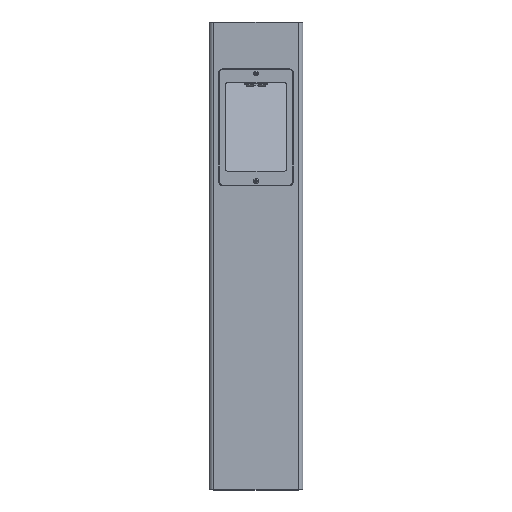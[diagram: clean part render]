
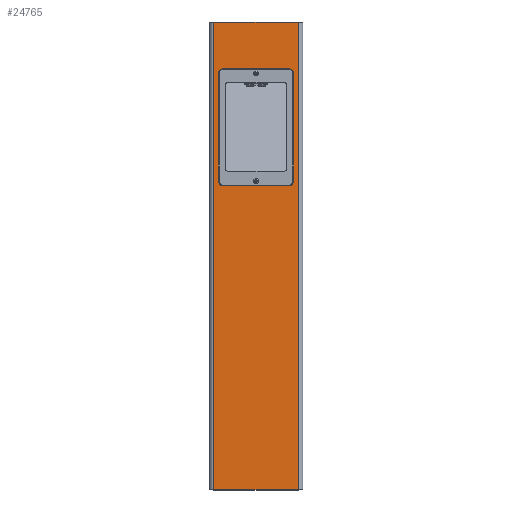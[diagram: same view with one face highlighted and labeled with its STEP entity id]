
A CAD part, top view. The second image highlights one B-rep face of the part: STEP entity #24765.
In plain terms, the highlighted planar face has unit normal (0, 0, 1).
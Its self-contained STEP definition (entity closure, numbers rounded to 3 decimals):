
#74 = DIRECTION ( 'NONE',  ( -1., 0., 0. ) ) ;
#287 = CARTESIAN_POINT ( 'NONE',  ( 70., 650., 50. ) ) ;
#643 = CARTESIAN_POINT ( 'NONE',  ( 80., 650., 50. ) ) ;
#1390 = EDGE_CURVE ( 'NONE', #9386, #35644, #16564, .T. ) ;
#1674 = VECTOR ( 'NONE', #6416, 1000. ) ;
#2121 = CARTESIAN_POINT ( 'NONE',  ( 80., 890., 50. ) ) ;
#2483 = DIRECTION ( 'NONE',  ( -1., 0., 0. ) ) ;
#3091 = CARTESIAN_POINT ( 'NONE',  ( -90., 0., 50. ) ) ;
#3532 = CARTESIAN_POINT ( 'NONE',  ( 90., 1000., 50. ) ) ;
#3735 = VERTEX_POINT ( 'NONE', #3532 ) ;
#3865 = VERTEX_POINT ( 'NONE', #35352 ) ;
#4044 = CIRCLE ( 'NONE', #20840, 10. ) ;
#4224 = VERTEX_POINT ( 'NONE', #11412 ) ;
#4380 = CARTESIAN_POINT ( 'NONE',  ( -70., 660., 50. ) ) ;
#5065 = CARTESIAN_POINT ( 'NONE',  ( -80., 900., 50. ) ) ;
#5258 = VERTEX_POINT ( 'NONE', #21775 ) ;
#6416 = DIRECTION ( 'NONE',  ( 0., -1., 0. ) ) ;
#7111 = DIRECTION ( 'NONE',  ( 1., 0., 0. ) ) ;
#7453 = LINE ( 'NONE', #5065, #11461 ) ;
#7532 = CARTESIAN_POINT ( 'NONE',  ( -80., 890., 50. ) ) ;
#7721 = VERTEX_POINT ( 'NONE', #14685 ) ;
#7908 = ORIENTED_EDGE ( 'NONE', *, *, #28803, .F. ) ;
#8850 = AXIS2_PLACEMENT_3D ( 'NONE', #4380, #33073, #2483 ) ;
#8882 = VECTOR ( 'NONE', #33794, 1000. ) ;
#8929 = CARTESIAN_POINT ( 'NONE',  ( 70., 900., 50. ) ) ;
#9182 = CARTESIAN_POINT ( 'NONE',  ( -90., 1000., 50. ) ) ;
#9386 = VERTEX_POINT ( 'NONE', #7532 ) ;
#9434 = LINE ( 'NONE', #24051, #25154 ) ;
#10195 = DIRECTION ( 'NONE',  ( 0., 0., -1. ) ) ;
#10449 = AXIS2_PLACEMENT_3D ( 'NONE', #33508, #30830, #28478 ) ;
#10785 = EDGE_CURVE ( 'NONE', #28067, #5258, #9434, .T. ) ;
#11412 = CARTESIAN_POINT ( 'NONE',  ( -70., 650., 50. ) ) ;
#11461 = VECTOR ( 'NONE', #32242, 1000. ) ;
#12243 = EDGE_LOOP ( 'NONE', ( #28143, #24737, #17807, #20842 ) ) ;
#12388 = FACE_OUTER_BOUND ( 'NONE', #12243, .T. ) ;
#12845 = ORIENTED_EDGE ( 'NONE', *, *, #1390, .F. ) ;
#13256 = DIRECTION ( 'NONE',  ( -1., 0., 0. ) ) ;
#13415 = ORIENTED_EDGE ( 'NONE', *, *, #13848, .T. ) ;
#13489 = CIRCLE ( 'NONE', #8850, 10. ) ;
#13696 = DIRECTION ( 'NONE',  ( 0., -1., 0. ) ) ;
#13724 = CARTESIAN_POINT ( 'NONE',  ( 90., 1000., 50. ) ) ;
#13848 = EDGE_CURVE ( 'NONE', #7721, #25542, #27784, .T. ) ;
#14028 = VECTOR ( 'NONE', #33048, 1000. ) ;
#14587 = LINE ( 'NONE', #22736, #18234 ) ;
#14682 = ORIENTED_EDGE ( 'NONE', *, *, #20803, .T. ) ;
#14685 = CARTESIAN_POINT ( 'NONE',  ( 80., 660., 50. ) ) ;
#15574 = VERTEX_POINT ( 'NONE', #8929 ) ;
#15604 = PLANE ( 'NONE',  #24467 ) ;
#16564 = LINE ( 'NONE', #27449, #30716 ) ;
#16944 = DIRECTION ( 'NONE',  ( 0., 0., -1. ) ) ;
#17024 = EDGE_CURVE ( 'NONE', #3735, #5258, #35591, .T. ) ;
#17661 = CARTESIAN_POINT ( 'NONE',  ( -90., 1000., 50. ) ) ;
#17807 = ORIENTED_EDGE ( 'NONE', *, *, #17024, .F. ) ;
#17888 = EDGE_CURVE ( 'NONE', #4224, #35644, #13489, .T. ) ;
#18234 = VECTOR ( 'NONE', #33741, 1000. ) ;
#18547 = EDGE_CURVE ( 'NONE', #21035, #28067, #31239, .T. ) ;
#19432 = AXIS2_PLACEMENT_3D ( 'NONE', #26510, #10195, #13256 ) ;
#19852 = VECTOR ( 'NONE', #7111, 1000. ) ;
#20465 = DIRECTION ( 'NONE',  ( 1., 0., 0. ) ) ;
#20803 = EDGE_CURVE ( 'NONE', #15574, #29639, #4044, .T. ) ;
#20840 = AXIS2_PLACEMENT_3D ( 'NONE', #22397, #16944, #74 ) ;
#20842 = ORIENTED_EDGE ( 'NONE', *, *, #32595, .F. ) ;
#21035 = VERTEX_POINT ( 'NONE', #9182 ) ;
#21775 = CARTESIAN_POINT ( 'NONE',  ( 90., 0., 50. ) ) ;
#22397 = CARTESIAN_POINT ( 'NONE',  ( 70., 890., 50. ) ) ;
#22736 = CARTESIAN_POINT ( 'NONE',  ( 80., 900., 50. ) ) ;
#23624 = ORIENTED_EDGE ( 'NONE', *, *, #35749, .T. ) ;
#23973 = CARTESIAN_POINT ( 'NONE',  ( 90., 1000., 50. ) ) ;
#24051 = CARTESIAN_POINT ( 'NONE',  ( 90., 0., 50. ) ) ;
#24070 = ORIENTED_EDGE ( 'NONE', *, *, #31025, .F. ) ;
#24145 = CARTESIAN_POINT ( 'NONE',  ( 90., 1000., 50. ) ) ;
#24467 = AXIS2_PLACEMENT_3D ( 'NONE', #23973, #29212, #32244 ) ;
#24596 = ORIENTED_EDGE ( 'NONE', *, *, #30410, .F. ) ;
#24737 = ORIENTED_EDGE ( 'NONE', *, *, #10785, .T. ) ;
#24765 = ADVANCED_FACE ( 'NONE', ( #12388, #26148 ), #15604, .F. ) ;
#25154 = VECTOR ( 'NONE', #20465, 1000. ) ;
#25512 = LINE ( 'NONE', #643, #8882 ) ;
#25542 = VERTEX_POINT ( 'NONE', #287 ) ;
#26148 = FACE_BOUND ( 'NONE', #28275, .T. ) ;
#26510 = CARTESIAN_POINT ( 'NONE',  ( -70., 890., 50. ) ) ;
#27449 = CARTESIAN_POINT ( 'NONE',  ( -80., 900., 50. ) ) ;
#27784 = CIRCLE ( 'NONE', #10449, 10. ) ;
#28067 = VERTEX_POINT ( 'NONE', #3091 ) ;
#28143 = ORIENTED_EDGE ( 'NONE', *, *, #18547, .T. ) ;
#28275 = EDGE_LOOP ( 'NONE', ( #12845, #23624, #24596, #14682, #7908, #13415, #24070, #30762 ) ) ;
#28478 = DIRECTION ( 'NONE',  ( -1., 0., 0. ) ) ;
#28803 = EDGE_CURVE ( 'NONE', #7721, #29639, #14587, .T. ) ;
#28860 = CARTESIAN_POINT ( 'NONE',  ( -80., 660., 50. ) ) ;
#29212 = DIRECTION ( 'NONE',  ( 0., 0., -1. ) ) ;
#29286 = CIRCLE ( 'NONE', #19432, 10. ) ;
#29639 = VERTEX_POINT ( 'NONE', #2121 ) ;
#30410 = EDGE_CURVE ( 'NONE', #15574, #3865, #7453, .T. ) ;
#30716 = VECTOR ( 'NONE', #13696, 1000. ) ;
#30762 = ORIENTED_EDGE ( 'NONE', *, *, #17888, .T. ) ;
#30830 = DIRECTION ( 'NONE',  ( 0., 0., -1. ) ) ;
#31025 = EDGE_CURVE ( 'NONE', #4224, #25542, #25512, .T. ) ;
#31239 = LINE ( 'NONE', #17661, #1674 ) ;
#31727 = LINE ( 'NONE', #24145, #19852 ) ;
#32242 = DIRECTION ( 'NONE',  ( -1., 0., 0. ) ) ;
#32244 = DIRECTION ( 'NONE',  ( -1., 0., 0. ) ) ;
#32595 = EDGE_CURVE ( 'NONE', #21035, #3735, #31727, .T. ) ;
#33048 = DIRECTION ( 'NONE',  ( 0., -1., 0. ) ) ;
#33073 = DIRECTION ( 'NONE',  ( 0., 0., -1. ) ) ;
#33508 = CARTESIAN_POINT ( 'NONE',  ( 70., 660., 50. ) ) ;
#33741 = DIRECTION ( 'NONE',  ( 0., 1., 0. ) ) ;
#33794 = DIRECTION ( 'NONE',  ( 1., 0., 0. ) ) ;
#35352 = CARTESIAN_POINT ( 'NONE',  ( -70., 900., 50. ) ) ;
#35591 = LINE ( 'NONE', #13724, #14028 ) ;
#35644 = VERTEX_POINT ( 'NONE', #28860 ) ;
#35749 = EDGE_CURVE ( 'NONE', #9386, #3865, #29286, .T. ) ;
